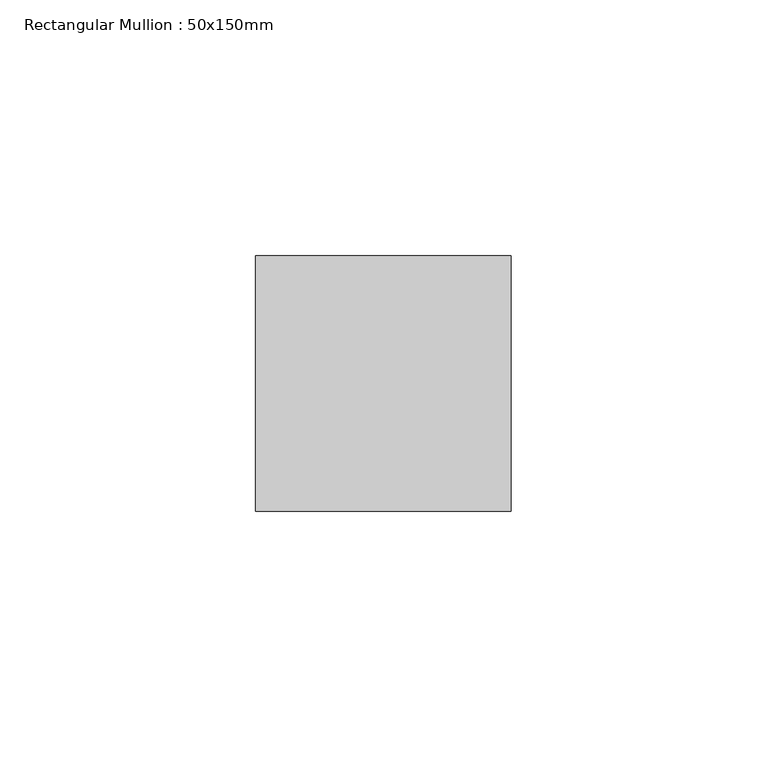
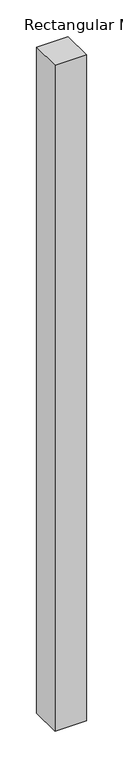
"""IFC4 building model written with IfcOpenShell, lengths in millimetres: member geometry, Rectangular Mullion : 50x150mm."""

from ifc_helpers import new_model, si_unit, frame, origin, place, context, project, spatial, polyline, outline, extrude, source, transform, mapped, element, save


def rectangular_mullion_50x150mm_e022757b(model_context):
    return source(origin(), model_context, "Body", "SweptSolid", [
        extrude(outline(polyline([(25.0, 25.0), (25.0, -25.0), (-25.0, -25.0), (-25.0, 25.0), (25.0, 25.0)])), frame((0.0, 0.0, -1108.4529299), z_axis=(0.0, 0.0, 1.0), x_axis=(1.0, 0.0, 0.0)), (0.0, 0.0, 1.0), 1108.4529299),
    ])


if __name__ == "__main__":
    model = new_model("IFC4")
    model_context = context("Model", 3, world=origin())
    ifc_project = project(units=[si_unit("LENGTHUNIT", "METRE", prefix="MILLI")], contexts=[model_context])
    site = spatial("IfcSite", under=ifc_project)
    building = spatial("IfcBuilding", under=site)
    placement = place(None, origin())
    rectangular_mullion_50x150mm_shape = rectangular_mullion_50x150mm_e022757b(model_context)
    element("IfcMember", 1, ObjectType="Rectangular Mullion : 50x150mm", at=placement, inside=building, context=model_context, shape_type="MappedRepresentation", body=[
        mapped(rectangular_mullion_50x150mm_shape, transform((0.0, 0.0, 0.0), x_axis=(1.0, 0.0, 0.0), y_axis=(0.0, 1.0, 0.0), z_axis=(0.0, 0.0, 1.0))),
    ])
    save(model, "model.ifc")
